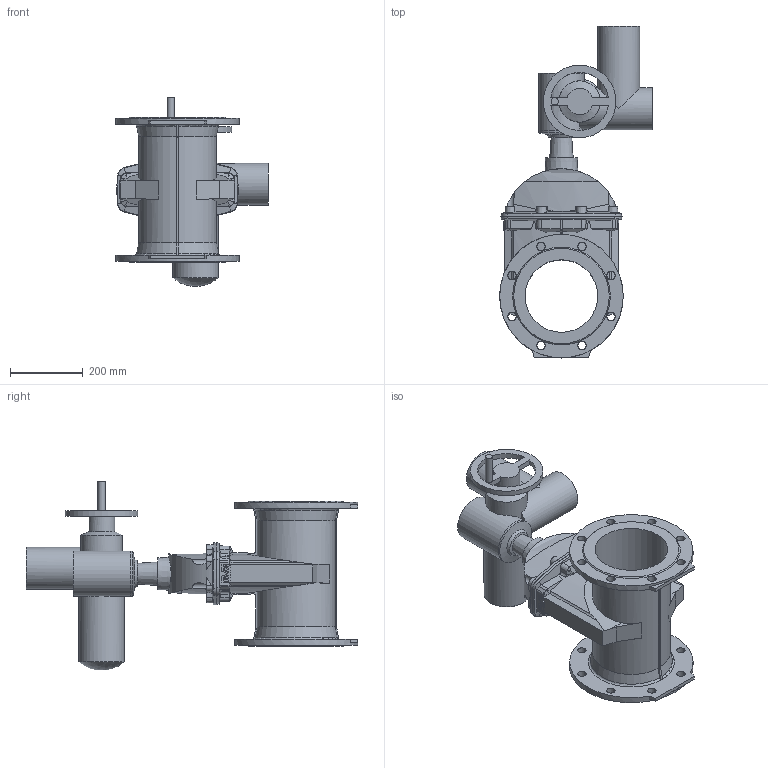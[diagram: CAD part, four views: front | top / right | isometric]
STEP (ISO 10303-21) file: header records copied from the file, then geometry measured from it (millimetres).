
FILE_DESCRIPTION (( 'STEP AP203' ), '1' );
FILE_NAME ('O_15_72_DN200_X0XXX099_SA10.2_AA0.step', '2017-03-20T12:54:53', ( 'Windows User' ), ( 'AVK' ), 'SwSTEP 2.0', 'SolidWorks 2012', '' );
FILE_SCHEMA (( 'CONFIG_CONTROL_DESIGN' ));
Length unit declared in the file: inch
Products named in the file (1): O_15_72_DN200_X0XXX099_SA10.2_AA0
Bounding box: 420 x 914 x 520.49 mm (x, y, z)
Volume: 22331666.1 mm3; surface area: 1432416.5 mm2
Topology: 1 solids, 1 shells, 367 faces, 1052 edges, 682 vertices
Faces by surface type: plane 168, cylinder 95, cone 87, sphere 11, bspline 4, torus 2
Full cylindrical faces by diameter (mm): 20 x1, 23 x16, 72.112 x1, 113.905 x1, 115 x2, 125 x3, 200 x2, 340 x2
Entity records: 13685 total; most frequent: CARTESIAN_POINT 4742, ORIENTED_EDGE 1934, DIRECTION 1691, EDGE_CURVE 967, VERTEX_POINT 649, AXIS2_PLACEMENT_3D 602, LINE 487, VECTOR 487
